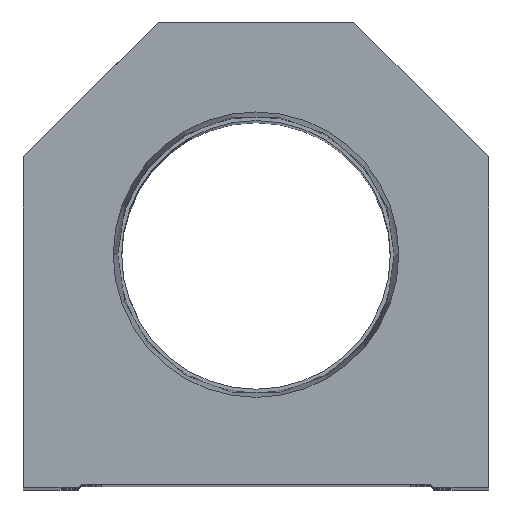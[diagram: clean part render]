
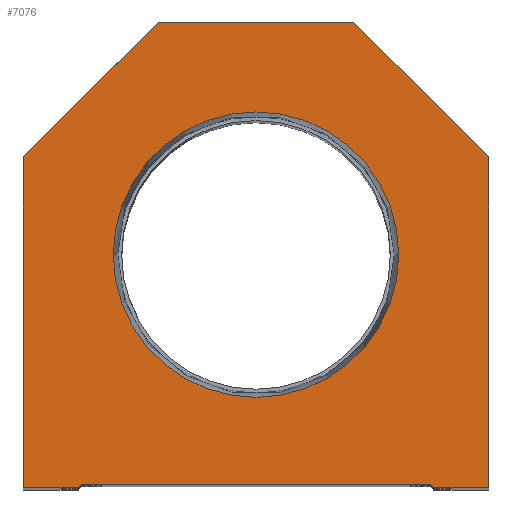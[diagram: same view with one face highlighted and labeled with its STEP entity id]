
A CAD part, top view. The second image highlights one B-rep face of the part: STEP entity #7076.
In plain terms, the highlighted planar face has unit normal (0, 0, 1).
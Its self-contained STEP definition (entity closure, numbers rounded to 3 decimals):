
#310 = VERTEX_POINT ( 'NONE', #7135 ) ;
#460 = CARTESIAN_POINT ( 'NONE',  ( 0., 38.1, 0. ) ) ;
#500 = VECTOR ( 'NONE', #9964, 1000. ) ;
#529 = CARTESIAN_POINT ( 'NONE',  ( 38.1, 0., 0. ) ) ;
#681 = ORIENTED_EDGE ( 'NONE', *, *, #12154, .T. ) ;
#719 = DIRECTION ( 'NONE',  ( 0., 0., 1. ) ) ;
#792 = LINE ( 'NONE', #529, #10410 ) ;
#826 = AXIS2_PLACEMENT_3D ( 'NONE', #12661, #8714, #1649 ) ;
#1099 = ORIENTED_EDGE ( 'NONE', *, *, #17662, .T. ) ;
#1232 = LINE ( 'NONE', #10831, #13659 ) ;
#1277 = VECTOR ( 'NONE', #7075, 1000. ) ;
#1642 = VECTOR ( 'NONE', #9039, 1000. ) ;
#1649 = DIRECTION ( 'NONE',  ( 1., 0., 0. ) ) ;
#1685 = CARTESIAN_POINT ( 'NONE',  ( 0., 0., 0. ) ) ;
#1730 = ORIENTED_EDGE ( 'NONE', *, *, #16782, .T. ) ;
#1946 = EDGE_CURVE ( 'NONE', #13823, #8207, #11468, .T. ) ;
#2015 = DIRECTION ( 'NONE',  ( 1., 0., 0. ) ) ;
#2045 = VERTEX_POINT ( 'NONE', #3600 ) ;
#2694 = CARTESIAN_POINT ( 'NONE',  ( 23.374, 38.1, 0. ) ) ;
#3106 = VERTEX_POINT ( 'NONE', #16430 ) ;
#3168 = LINE ( 'NONE', #12731, #500 ) ;
#3252 = CARTESIAN_POINT ( 'NONE',  ( -28.6, 0., 0. ) ) ;
#3587 = AXIS2_PLACEMENT_3D ( 'NONE', #460, #719, #13512 ) ;
#3600 = CARTESIAN_POINT ( 'NONE',  ( 29.1, 0., 0. ) ) ;
#4087 = ORIENTED_EDGE ( 'NONE', *, *, #16132, .T. ) ;
#4254 = ORIENTED_EDGE ( 'NONE', *, *, #16696, .T. ) ;
#4412 = ORIENTED_EDGE ( 'NONE', *, *, #16983, .T. ) ;
#4483 = ORIENTED_EDGE ( 'NONE', *, *, #6932, .F. ) ;
#4560 = EDGE_CURVE ( 'NONE', #7947, #7355, #3168, .T. ) ;
#4640 = VERTEX_POINT ( 'NONE', #9390 ) ;
#4715 = LINE ( 'NONE', #14290, #9371 ) ;
#4872 = DIRECTION ( 'NONE',  ( 0., 1., 0. ) ) ;
#4887 = DIRECTION ( 'NONE',  ( 0.707, 0.707, 0. ) ) ;
#5162 = VERTEX_POINT ( 'NONE', #15932 ) ;
#5258 = VECTOR ( 'NONE', #8604, 1000. ) ;
#5858 = PLANE ( 'NONE',  #17603 ) ;
#6571 = CARTESIAN_POINT ( 'NONE',  ( -38.1, 54.1, 0. ) ) ;
#6811 = VECTOR ( 'NONE', #2015, 1000. ) ;
#6932 = EDGE_CURVE ( 'NONE', #4640, #10861, #11378, .T. ) ;
#6967 = EDGE_CURVE ( 'NONE', #11761, #3106, #1232, .T. ) ;
#7035 = FACE_BOUND ( 'NONE', #17014, .T. ) ;
#7075 = DIRECTION ( 'NONE',  ( 0., -1., 0. ) ) ;
#7076 = ADVANCED_FACE ( 'NONE', ( #7035, #12430 ), #5858, .T. ) ;
#7135 = CARTESIAN_POINT ( 'NONE',  ( -38.1, 0., 0. ) ) ;
#7355 = VERTEX_POINT ( 'NONE', #8464 ) ;
#7904 = VERTEX_POINT ( 'NONE', #12935 ) ;
#7947 = VERTEX_POINT ( 'NONE', #17630 ) ;
#8207 = VERTEX_POINT ( 'NONE', #6571 ) ;
#8464 = CARTESIAN_POINT ( 'NONE',  ( 16., 76.2, 0. ) ) ;
#8604 = DIRECTION ( 'NONE',  ( -1., 0., 0. ) ) ;
#8674 = LINE ( 'NONE', #3252, #10825 ) ;
#8678 = CARTESIAN_POINT ( 'NONE',  ( -16., 76.2, 0. ) ) ;
#8714 = DIRECTION ( 'NONE',  ( 0., 0., 1. ) ) ;
#8877 = ORIENTED_EDGE ( 'NONE', *, *, #1946, .T. ) ;
#9039 = DIRECTION ( 'NONE',  ( -0.707, -0.707, 0. ) ) ;
#9371 = VECTOR ( 'NONE', #15553, 1000. ) ;
#9390 = CARTESIAN_POINT ( 'NONE',  ( -23.374, 38.1, 0. ) ) ;
#9793 = CARTESIAN_POINT ( 'NONE',  ( 16., 76.2, 0. ) ) ;
#9794 = CARTESIAN_POINT ( 'NONE',  ( -38.1, 0., 0. ) ) ;
#9964 = DIRECTION ( 'NONE',  ( -0.707, 0.707, 0. ) ) ;
#10410 = VECTOR ( 'NONE', #4872, 1000. ) ;
#10825 = VECTOR ( 'NONE', #15438, 1000. ) ;
#10831 = CARTESIAN_POINT ( 'NONE',  ( -14.55, 14.55, 0. ) ) ;
#10861 = VERTEX_POINT ( 'NONE', #2694 ) ;
#11300 = ORIENTED_EDGE ( 'NONE', *, *, #14677, .T. ) ;
#11378 = CIRCLE ( 'NONE', #3587, 23.374 ) ;
#11468 = LINE ( 'NONE', #15705, #1642 ) ;
#11581 = LINE ( 'NONE', #9793, #5258 ) ;
#11761 = VERTEX_POINT ( 'NONE', #13086 ) ;
#11770 = CARTESIAN_POINT ( 'NONE',  ( -28.6, 0.5, 0. ) ) ;
#11840 = DIRECTION ( 'NONE',  ( 0.707, -0.707, 0. ) ) ;
#12041 = EDGE_CURVE ( 'NONE', #10861, #4640, #15254, .T. ) ;
#12154 = EDGE_CURVE ( 'NONE', #5162, #2045, #13368, .T. ) ;
#12430 = FACE_OUTER_BOUND ( 'NONE', #15751, .T. ) ;
#12661 = CARTESIAN_POINT ( 'NONE',  ( 0., 38.1, 0. ) ) ;
#12731 = CARTESIAN_POINT ( 'NONE',  ( 38.1, 54.1, 0. ) ) ;
#12935 = CARTESIAN_POINT ( 'NONE',  ( 38.1, 0., 0. ) ) ;
#13086 = CARTESIAN_POINT ( 'NONE',  ( -29.1, 0., 0. ) ) ;
#13108 = CARTESIAN_POINT ( 'NONE',  ( 14.55, 14.55, 0. ) ) ;
#13368 = LINE ( 'NONE', #13108, #14400 ) ;
#13512 = DIRECTION ( 'NONE',  ( 1., 0., 0. ) ) ;
#13659 = VECTOR ( 'NONE', #4887, 1000. ) ;
#13796 = DIRECTION ( 'NONE',  ( 1., 0., 0. ) ) ;
#13823 = VERTEX_POINT ( 'NONE', #8678 ) ;
#14290 = CARTESIAN_POINT ( 'NONE',  ( 28.6, 0., 0. ) ) ;
#14400 = VECTOR ( 'NONE', #11840, 1000. ) ;
#14677 = EDGE_CURVE ( 'NONE', #7904, #7947, #792, .T. ) ;
#15254 = CIRCLE ( 'NONE', #826, 23.374 ) ;
#15438 = DIRECTION ( 'NONE',  ( 1., 0., 0. ) ) ;
#15553 = DIRECTION ( 'NONE',  ( 1., 0., 0. ) ) ;
#15705 = CARTESIAN_POINT ( 'NONE',  ( -38.1, 54.1, 0. ) ) ;
#15751 = EDGE_LOOP ( 'NONE', ( #4412, #16574, #1099, #681, #1730, #11300, #17316, #4087, #8877, #4254 ) ) ;
#15932 = CARTESIAN_POINT ( 'NONE',  ( 28.6, 0.5, 0. ) ) ;
#16095 = ORIENTED_EDGE ( 'NONE', *, *, #12041, .F. ) ;
#16132 = EDGE_CURVE ( 'NONE', #7355, #13823, #11581, .T. ) ;
#16430 = CARTESIAN_POINT ( 'NONE',  ( -28.6, 0.5, 0. ) ) ;
#16530 = DIRECTION ( 'NONE',  ( 0., 0., 1. ) ) ;
#16574 = ORIENTED_EDGE ( 'NONE', *, *, #6967, .T. ) ;
#16696 = EDGE_CURVE ( 'NONE', #8207, #310, #17738, .T. ) ;
#16782 = EDGE_CURVE ( 'NONE', #2045, #7904, #4715, .T. ) ;
#16983 = EDGE_CURVE ( 'NONE', #310, #11761, #8674, .T. ) ;
#17014 = EDGE_LOOP ( 'NONE', ( #16095, #4483 ) ) ;
#17300 = LINE ( 'NONE', #11770, #6811 ) ;
#17316 = ORIENTED_EDGE ( 'NONE', *, *, #4560, .T. ) ;
#17603 = AXIS2_PLACEMENT_3D ( 'NONE', #1685, #16530, #13796 ) ;
#17630 = CARTESIAN_POINT ( 'NONE',  ( 38.1, 54.1, 0. ) ) ;
#17662 = EDGE_CURVE ( 'NONE', #3106, #5162, #17300, .T. ) ;
#17738 = LINE ( 'NONE', #9794, #1277 ) ;
